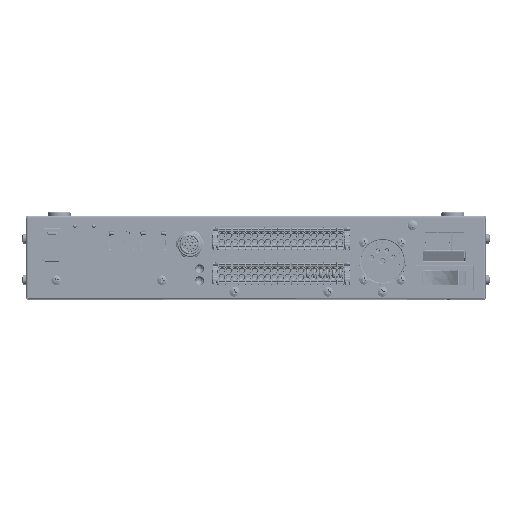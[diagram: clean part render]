
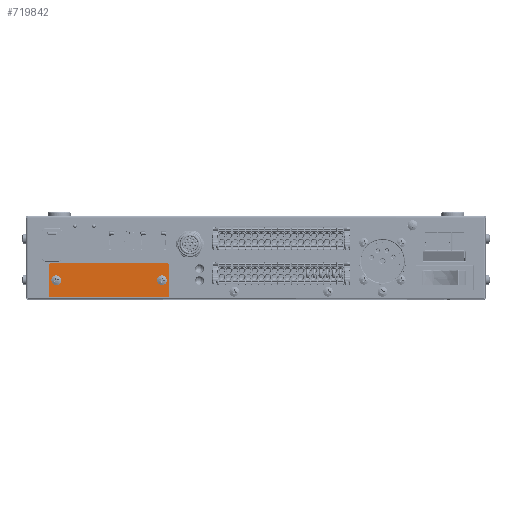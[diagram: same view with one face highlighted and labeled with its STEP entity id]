
A CAD part, top view. The second image highlights one B-rep face of the part: STEP entity #719842.
In plain terms, the highlighted planar face has unit normal (0, 0, 1).
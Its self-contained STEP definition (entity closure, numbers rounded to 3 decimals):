
#5038 = ORIENTED_EDGE ( 'NONE', *, *, #203088, .F. ) ;
#15789 = DIRECTION ( 'NONE',  ( 1., 0., 0. ) ) ;
#27726 = EDGE_CURVE ( 'NONE', #156205, #752277, #405588, .T. ) ;
#48223 = VERTEX_POINT ( 'NONE', #208346 ) ;
#59403 = ORIENTED_EDGE ( 'NONE', *, *, #356256, .F. ) ;
#65826 = DIRECTION ( 'NONE',  ( 1., 0., 0. ) ) ;
#71979 = CARTESIAN_POINT ( 'NONE',  ( 70.7, 1.15, 0.3 ) ) ;
#81973 = DIRECTION ( 'NONE',  ( 0., 0., -1. ) ) ;
#93276 = CIRCLE ( 'NONE', #271400, 1.6 ) ;
#95315 = ORIENTED_EDGE ( 'NONE', *, *, #355387, .F. ) ;
#105841 = AXIS2_PLACEMENT_3D ( 'NONE', #185901, #125523, #65826 ) ;
#108840 = CIRCLE ( 'NONE', #206436, 1. ) ;
#125523 = DIRECTION ( 'NONE',  ( 0., 0., -1. ) ) ;
#134742 = ORIENTED_EDGE ( 'NONE', *, *, #778371, .F. ) ;
#138727 = EDGE_CURVE ( 'NONE', #318172, #332389, #229518, .T. ) ;
#148319 = VERTEX_POINT ( 'NONE', #824042 ) ;
#156205 = VERTEX_POINT ( 'NONE', #916399 ) ;
#172516 = CARTESIAN_POINT ( 'NONE',  ( 70.7, 2.15, 0.3 ) ) ;
#181677 = VERTEX_POINT ( 'NONE', #821011 ) ;
#185901 = CARTESIAN_POINT ( 'NONE',  ( 70.7, 18.15, 0.3 ) ) ;
#202865 = CARTESIAN_POINT ( 'NONE',  ( 8.5, 19.15, 0.3 ) ) ;
#203088 = EDGE_CURVE ( 'NONE', #580164, #48223, #734390, .T. ) ;
#203489 = CIRCLE ( 'NONE', #105841, 1. ) ;
#206436 = AXIS2_PLACEMENT_3D ( 'NONE', #172516, #81973, #652444 ) ;
#207242 = DIRECTION ( 'NONE',  ( 1., 0., 0. ) ) ;
#208346 = CARTESIAN_POINT ( 'NONE',  ( 13., 10.15, 0.3 ) ) ;
#226253 = EDGE_CURVE ( 'NONE', #332389, #318172, #93276, .T. ) ;
#229518 = CIRCLE ( 'NONE', #498775, 1.6 ) ;
#256776 = VERTEX_POINT ( 'NONE', #691118 ) ;
#264061 = DIRECTION ( 'NONE',  ( 0., 1., 0. ) ) ;
#265154 = CARTESIAN_POINT ( 'NONE',  ( 7.5, 1.15, 0.3 ) ) ;
#269782 = LINE ( 'NONE', #360943, #766728 ) ;
#271400 = AXIS2_PLACEMENT_3D ( 'NONE', #477361, #416974, #207242 ) ;
#295279 = FACE_BOUND ( 'NONE', #835476, .T. ) ;
#310344 = VERTEX_POINT ( 'NONE', #777375 ) ;
#318172 = VERTEX_POINT ( 'NONE', #827192 ) ;
#319223 = CARTESIAN_POINT ( 'NONE',  ( 71.7, 2.15, 0.3 ) ) ;
#326824 = DIRECTION ( 'NONE',  ( 1., 0., 0. ) ) ;
#332389 = VERTEX_POINT ( 'NONE', #348079 ) ;
#345544 = DIRECTION ( 'NONE',  ( 0., 0., 1. ) ) ;
#348079 = CARTESIAN_POINT ( 'NONE',  ( 66.2, 10.15, 0.3 ) ) ;
#355387 = EDGE_CURVE ( 'NONE', #458389, #310344, #664962, .T. ) ;
#356256 = EDGE_CURVE ( 'NONE', #752277, #181677, #815963, .T. ) ;
#360269 = DIRECTION ( 'NONE',  ( 0., -1., 0. ) ) ;
#360943 = CARTESIAN_POINT ( 'NONE',  ( 71.7, 10.15, 0.3 ) ) ;
#362719 = ORIENTED_EDGE ( 'NONE', *, *, #870391, .F. ) ;
#366066 = CARTESIAN_POINT ( 'NONE',  ( 39.6, 19.15, 0.3 ) ) ;
#375685 = VECTOR ( 'NONE', #264061, 1000. ) ;
#376511 = AXIS2_PLACEMENT_3D ( 'NONE', #519955, #760000, #326824 ) ;
#396055 = DIRECTION ( 'NONE',  ( 1., 0., 0. ) ) ;
#400599 = ORIENTED_EDGE ( 'NONE', *, *, #636896, .F. ) ;
#405588 = CIRCLE ( 'NONE', #669645, 1. ) ;
#416974 = DIRECTION ( 'NONE',  ( 0., 0., 1. ) ) ;
#419356 = DIRECTION ( 'NONE',  ( 0., 0., -1. ) ) ;
#420667 = CARTESIAN_POINT ( 'NONE',  ( 11.4, 10.15, 0.3 ) ) ;
#458389 = VERTEX_POINT ( 'NONE', #71979 ) ;
#459135 = CARTESIAN_POINT ( 'NONE',  ( 7.5, 10.15, 0.3 ) ) ;
#459170 = VECTOR ( 'NONE', #860042, 1000. ) ;
#461788 = ORIENTED_EDGE ( 'NONE', *, *, #138727, .F. ) ;
#465104 = EDGE_CURVE ( 'NONE', #148319, #601490, #269782, .T. ) ;
#477361 = CARTESIAN_POINT ( 'NONE',  ( 67.8, 10.15, 0.3 ) ) ;
#490392 = FACE_OUTER_BOUND ( 'NONE', #711606, .T. ) ;
#498775 = AXIS2_PLACEMENT_3D ( 'NONE', #664673, #635118, #875173 ) ;
#504003 = LINE ( 'NONE', #459135, #375685 ) ;
#509465 = ORIENTED_EDGE ( 'NONE', *, *, #226253, .F. ) ;
#519955 = CARTESIAN_POINT ( 'NONE',  ( 8.5, 2.15, 0.3 ) ) ;
#525222 = ORIENTED_EDGE ( 'NONE', *, *, #465104, .F. ) ;
#536660 = ORIENTED_EDGE ( 'NONE', *, *, #844670, .F. ) ;
#538027 = AXIS2_PLACEMENT_3D ( 'NONE', #770945, #650904, #396055 ) ;
#554181 = EDGE_CURVE ( 'NONE', #601490, #458389, #108840, .T. ) ;
#570100 = ORIENTED_EDGE ( 'NONE', *, *, #27726, .F. ) ;
#580164 = VERTEX_POINT ( 'NONE', #782910 ) ;
#601490 = VERTEX_POINT ( 'NONE', #319223 ) ;
#625226 = AXIS2_PLACEMENT_3D ( 'NONE', #265154, #790068, #910064 ) ;
#635118 = DIRECTION ( 'NONE',  ( 0., 0., 1. ) ) ;
#636896 = EDGE_CURVE ( 'NONE', #48223, #580164, #887981, .T. ) ;
#650197 = CARTESIAN_POINT ( 'NONE',  ( 39.6, 1.15, 0.3 ) ) ;
#650904 = DIRECTION ( 'NONE',  ( 0., 0., 1. ) ) ;
#652317 = CIRCLE ( 'NONE', #376511, 1. ) ;
#652444 = DIRECTION ( 'NONE',  ( 1., 0., 0. ) ) ;
#664673 = CARTESIAN_POINT ( 'NONE',  ( 67.8, 10.15, 0.3 ) ) ;
#664962 = LINE ( 'NONE', #650197, #459170 ) ;
#669645 = AXIS2_PLACEMENT_3D ( 'NONE', #853816, #419356, #674099 ) ;
#670076 = PLANE ( 'NONE',  #625226 ) ;
#674099 = DIRECTION ( 'NONE',  ( 1., 0., 0. ) ) ;
#681151 = DIRECTION ( 'NONE',  ( 1., 0., 0. ) ) ;
#691118 = CARTESIAN_POINT ( 'NONE',  ( 7.5, 2.15, 0.3 ) ) ;
#711606 = EDGE_LOOP ( 'NONE', ( #59403, #570100, #362719, #134742, #95315, #722033, #525222, #536660 ) ) ;
#719842 = ADVANCED_FACE ( 'NONE', ( #775338, #295279, #490392 ), #670076, .F. ) ;
#722033 = ORIENTED_EDGE ( 'NONE', *, *, #554181, .F. ) ;
#734390 = CIRCLE ( 'NONE', #848863, 1.6 ) ;
#739438 = EDGE_LOOP ( 'NONE', ( #461788, #509465 ) ) ;
#752277 = VERTEX_POINT ( 'NONE', #202865 ) ;
#760000 = DIRECTION ( 'NONE',  ( 0., 0., -1. ) ) ;
#766728 = VECTOR ( 'NONE', #360269, 1000. ) ;
#770945 = CARTESIAN_POINT ( 'NONE',  ( 11.4, 10.15, 0.3 ) ) ;
#775338 = FACE_BOUND ( 'NONE', #739438, .T. ) ;
#777375 = CARTESIAN_POINT ( 'NONE',  ( 8.5, 1.15, 0.3 ) ) ;
#778371 = EDGE_CURVE ( 'NONE', #310344, #256776, #652317, .T. ) ;
#782910 = CARTESIAN_POINT ( 'NONE',  ( 9.8, 10.15, 0.3 ) ) ;
#790068 = DIRECTION ( 'NONE',  ( 0., 0., -1. ) ) ;
#815963 = LINE ( 'NONE', #366066, #910714 ) ;
#821011 = CARTESIAN_POINT ( 'NONE',  ( 70.7, 19.15, 0.3 ) ) ;
#824042 = CARTESIAN_POINT ( 'NONE',  ( 71.7, 18.15, 0.3 ) ) ;
#827192 = CARTESIAN_POINT ( 'NONE',  ( 69.4, 10.15, 0.3 ) ) ;
#835476 = EDGE_LOOP ( 'NONE', ( #400599, #5038 ) ) ;
#844670 = EDGE_CURVE ( 'NONE', #181677, #148319, #203489, .T. ) ;
#848863 = AXIS2_PLACEMENT_3D ( 'NONE', #420667, #345544, #15789 ) ;
#853816 = CARTESIAN_POINT ( 'NONE',  ( 8.5, 18.15, 0.3 ) ) ;
#860042 = DIRECTION ( 'NONE',  ( -1., 0., 0. ) ) ;
#870391 = EDGE_CURVE ( 'NONE', #256776, #156205, #504003, .T. ) ;
#875173 = DIRECTION ( 'NONE',  ( 1., 0., 0. ) ) ;
#887981 = CIRCLE ( 'NONE', #538027, 1.6 ) ;
#910064 = DIRECTION ( 'NONE',  ( 0., 1., 0. ) ) ;
#910714 = VECTOR ( 'NONE', #681151, 1000. ) ;
#916399 = CARTESIAN_POINT ( 'NONE',  ( 7.5, 18.15, 0.3 ) ) ;
